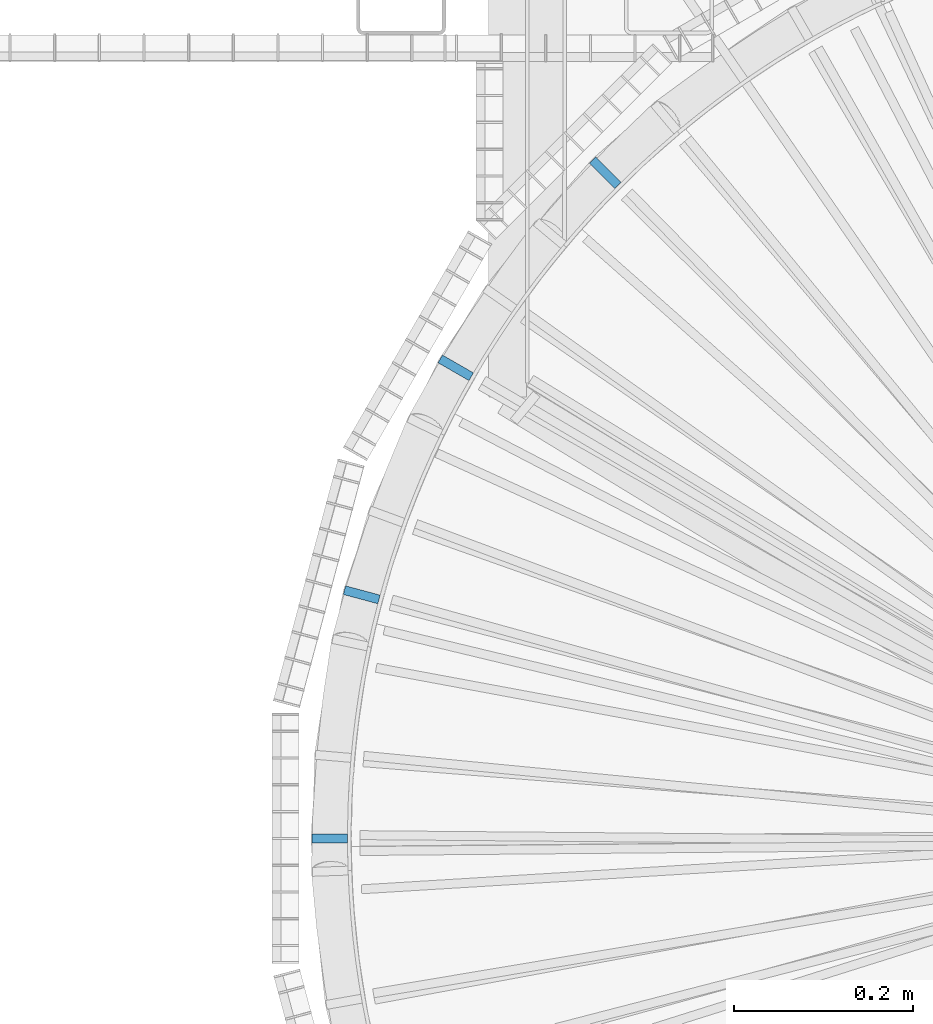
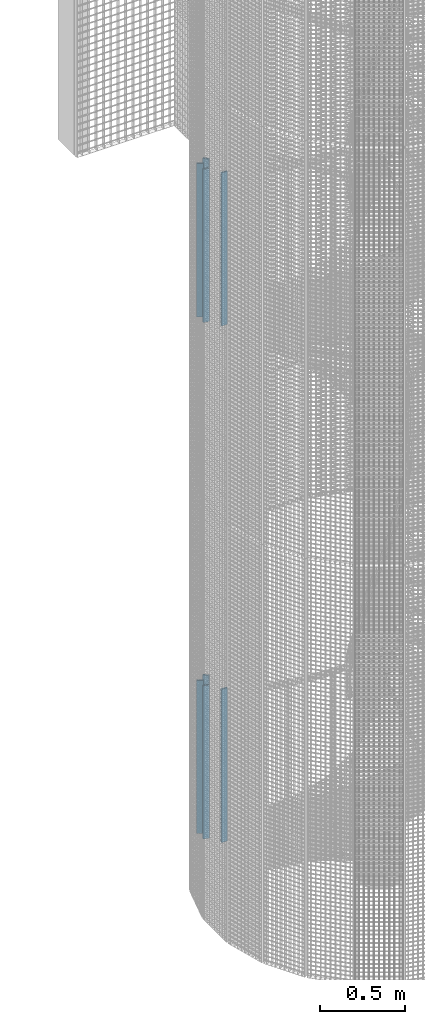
# One storey, part 9 of 1183: 8 columns, 8 elements without a shape of their own.
"""IFC2X3 building model written with IfcOpenShell, lengths in millimetres."""

from ifc_helpers import new_model, si_unit, frame, origin_with_axes, origin_2d_with_axis, place, context, subcontext, project, spatial, rectangle, extrude, material, type_object, element, aggregate, save


model = new_model("IFC2X3")

# Units and contexts
model_context = context("Model", 3, precision=1e-05, world=origin_with_axes())
body_context = subcontext(model_context, "Body", "Model", "MODEL_VIEW")
ifc_project = project(units=[si_unit("LENGTHUNIT", "METRE", prefix="MILLI"), si_unit("AREAUNIT", "SQUARE_METRE"), si_unit("VOLUMEUNIT", "CUBIC_METRE"), si_unit("MASSUNIT", "GRAM", prefix="KILO"), si_unit("TIMEUNIT", "SECOND"), si_unit("PLANEANGLEUNIT", "RADIAN"), si_unit("SOLIDANGLEUNIT", "STERADIAN"), si_unit("THERMODYNAMICTEMPERATUREUNIT", "DEGREE_CELSIUS"), si_unit("LUMINOUSINTENSITYUNIT", "LUMEN")], contexts=[model_context])

# Site, building, storey
site_placement = place(None, origin_with_axes())
site = spatial("IfcSite", under=ifc_project, at=site_placement, Name="Undefined", CompositionType="ELEMENT")
building_placement = place(site_placement, origin_with_axes())
building = spatial("IfcBuilding", under=site, at=building_placement, Name="Undefined", CompositionType="ELEMENT")
storey_placement = place(building_placement, origin_with_axes())
storey = spatial("IfcBuildingStorey", under=building, at=storey_placement, Name="Undefined", CompositionType="ELEMENT", Elevation=0.0)

# Assembly, column
assembly_1_placement = place(storey_placement, origin_with_axes())
assembly_1 = element("IfcElementAssembly", 1, at=assembly_1_placement, inside=storey, Name="MONTANT", AssemblyPlace="NOTDEFINED", PredefinedType="NOTDEFINED")
ifc_material = material(Name="STEEL/S235JR")
column_type = type_object("IfcColumnType", Name="PL10*40", PredefinedType="NOTDEFINED")
column_1_placement = place(assembly_1_placement, frame((-745.29054737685, 745.290547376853, 3863.0), z_axis=(0.0, 0.0, 1.0), x_axis=(0.707106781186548, -0.707106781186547, 0.0)))
column_1 = element("IfcColumn", 2, at=column_1_placement, type_object=column_type, material=ifc_material, Name="MONTANT", context=body_context, shape_type="SweptSolid", body=[
    extrude(rectangle(XDim=10.0, YDim=40.0, at=origin_2d_with_axis()), frame((0.0, 0.0, 1100.0), z_axis=(0.0, 0.0, -1.0), x_axis=(0.0, 1.0, 0.0)), (0.0, 0.0, 1.0), 1100.0),
])
aggregate(assembly_1, [column_1])

assembly_2_placement = place(storey_placement, origin_with_axes())
assembly_2 = element("IfcElementAssembly", 3, at=assembly_2_placement, inside=storey, Name="MONTANT", AssemblyPlace="NOTDEFINED", PredefinedType="NOTDEFINED")
column_2_placement = place(assembly_2_placement, frame((-912.790775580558, 526.999999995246, 4017.52), z_axis=(0.0, 0.0, 1.0), x_axis=(0.866025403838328, -0.49999999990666, 0.0)))
column_2 = element("IfcColumn", 4, at=column_2_placement, type_object=column_type, material=ifc_material, Name="MONTANT", context=body_context, shape_type="SweptSolid", body=[
    extrude(rectangle(XDim=10.0, YDim=40.0, at=origin_2d_with_axis()), frame((0.0, 0.0, 1100.0), z_axis=(0.0, 0.0, -1.0), x_axis=(0.0, 1.0, 0.0)), (0.0, 0.0, 1.0), 1100.0),
])
aggregate(assembly_2, [column_2])

assembly_3_placement = place(storey_placement, origin_with_axes())
assembly_3 = element("IfcElementAssembly", 5, at=assembly_3_placement, inside=storey, Name="MONTANT", AssemblyPlace="NOTDEFINED", PredefinedType="NOTDEFINED")
column_3_placement = place(assembly_3_placement, frame((-1018.08582090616, 272.795273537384, 4172.04), z_axis=(0.0, 0.0, 1.0), x_axis=(0.965925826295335, -0.258819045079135, 0.0)))
column_3 = element("IfcColumn", 6, at=column_3_placement, type_object=column_type, material=ifc_material, Name="MONTANT", context=body_context, shape_type="SweptSolid", body=[
    extrude(rectangle(XDim=10.0, YDim=40.0, at=origin_2d_with_axis()), frame((0.0, 0.0, 1100.0), z_axis=(0.0, 0.0, -1.0), x_axis=(0.0, 1.0, 0.0)), (0.0, 0.0, 1.0), 1100.0),
])
aggregate(assembly_3, [column_3])

assembly_4_placement = place(storey_placement, origin_with_axes())
assembly_4 = element("IfcElementAssembly", 7, at=assembly_4_placement, inside=storey, Name="MONTANT", AssemblyPlace="NOTDEFINED", PredefinedType="NOTDEFINED")
column_4_placement = place(assembly_4_placement, frame((-1054.00000000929, 2.72848410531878e-12, 4326.56), z_axis=(0.0, 0.0, 1.0), x_axis=(1.0, 0.0, 0.0)))
column_4 = element("IfcColumn", 8, at=column_4_placement, type_object=column_type, material=ifc_material, Name="MONTANT", context=body_context, shape_type="SweptSolid", body=[
    extrude(rectangle(XDim=10.0, YDim=40.0, at=origin_2d_with_axis()), frame((0.0, 0.0, 1100.0), z_axis=(0.0, 0.0, -1.0), x_axis=(0.0, 1.0, 0.0)), (0.0, 0.0, 1.0), 1100.0),
])
aggregate(assembly_4, [column_4])

assembly_5_placement = place(storey_placement, origin_with_axes())
assembly_5 = element("IfcElementAssembly", 9, at=assembly_5_placement, inside=storey, Name="MONTANT", AssemblyPlace="NOTDEFINED", PredefinedType="NOTDEFINED")
column_5_placement = place(assembly_5_placement, frame((-745.29054737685, 745.290547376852, 154.52), z_axis=(0.0, 0.0, 1.0), x_axis=(0.707106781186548, -0.707106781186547, 0.0)))
column_5 = element("IfcColumn", 10, at=column_5_placement, type_object=column_type, material=ifc_material, Name="MONTANT", context=body_context, shape_type="SweptSolid", body=[
    extrude(rectangle(XDim=10.0, YDim=40.0, at=origin_2d_with_axis()), frame((0.0, 0.0, 1100.0), z_axis=(0.0, 0.0, -1.0), x_axis=(0.0, 1.0, 0.0)), (0.0, 0.0, 1.0), 1100.0),
])
aggregate(assembly_5, [column_5])

assembly_6_placement = place(storey_placement, origin_with_axes())
assembly_6 = element("IfcElementAssembly", 11, at=assembly_6_placement, inside=storey, Name="MONTANT", AssemblyPlace="NOTDEFINED", PredefinedType="NOTDEFINED")
column_6_placement = place(assembly_6_placement, frame((-912.790775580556, 526.999999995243, 309.04), z_axis=(0.0, 0.0, 1.0), x_axis=(0.866025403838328, -0.49999999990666, 0.0)))
column_6 = element("IfcColumn", 12, at=column_6_placement, type_object=column_type, material=ifc_material, Name="MONTANT", context=body_context, shape_type="SweptSolid", body=[
    extrude(rectangle(XDim=10.0, YDim=40.0, at=origin_2d_with_axis()), frame((0.0, 0.0, 1100.0), z_axis=(0.0, 0.0, -1.0), x_axis=(0.0, 1.0, 0.0)), (0.0, 0.0, 1.0), 1100.0),
])
aggregate(assembly_6, [column_6])

assembly_7_placement = place(storey_placement, origin_with_axes())
assembly_7 = element("IfcElementAssembly", 13, at=assembly_7_placement, inside=storey, Name="MONTANT", AssemblyPlace="NOTDEFINED", PredefinedType="NOTDEFINED")
column_7_placement = place(assembly_7_placement, frame((-1018.08582090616, 272.795273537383, 463.56), z_axis=(0.0, 0.0, 1.0), x_axis=(0.965925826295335, -0.258819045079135, 0.0)))
column_7 = element("IfcColumn", 14, at=column_7_placement, type_object=column_type, material=ifc_material, Name="MONTANT", context=body_context, shape_type="SweptSolid", body=[
    extrude(rectangle(XDim=10.0, YDim=40.0, at=origin_2d_with_axis()), frame((0.0, 0.0, 1100.0), z_axis=(0.0, 0.0, -1.0), x_axis=(0.0, 1.0, 0.0)), (0.0, 0.0, 1.0), 1100.0),
])
aggregate(assembly_7, [column_7])

assembly_8_placement = place(storey_placement, origin_with_axes())
assembly_8 = element("IfcElementAssembly", 15, at=assembly_8_placement, inside=storey, Name="MONTANT", AssemblyPlace="NOTDEFINED", PredefinedType="NOTDEFINED")
column_8_placement = place(assembly_8_placement, frame((-1054.00000000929, 2.04636307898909e-12, 618.08), z_axis=(0.0, 0.0, 1.0), x_axis=(1.0, 0.0, 0.0)))
column_8 = element("IfcColumn", 16, at=column_8_placement, type_object=column_type, material=ifc_material, Name="MONTANT", context=body_context, shape_type="SweptSolid", body=[
    extrude(rectangle(XDim=10.0, YDim=40.0, at=origin_2d_with_axis()), frame((0.0, 0.0, 1100.0), z_axis=(0.0, 0.0, -1.0), x_axis=(0.0, 1.0, 0.0)), (0.0, 0.0, 1.0), 1100.0),
])
aggregate(assembly_8, [column_8])

save(model, "model.ifc")
